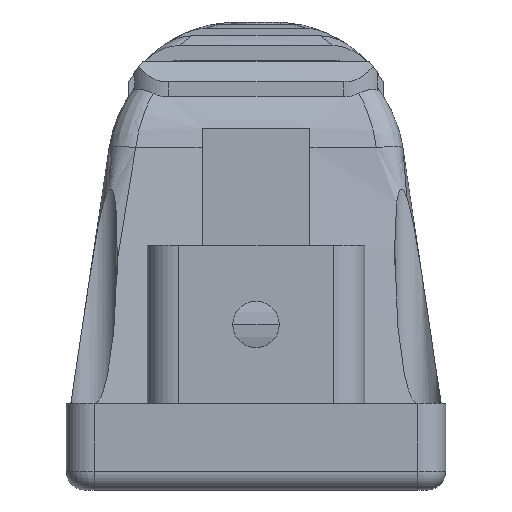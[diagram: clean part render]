
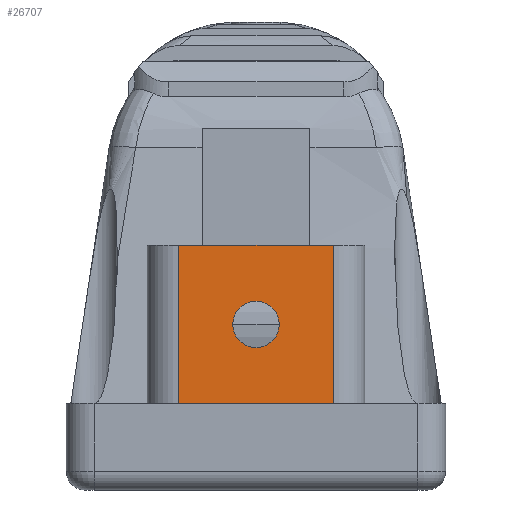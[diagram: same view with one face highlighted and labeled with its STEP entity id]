
A CAD part, front view. The second image highlights one B-rep face of the part: STEP entity #26707.
In plain terms, the highlighted planar face has unit normal (0, -1, 0).
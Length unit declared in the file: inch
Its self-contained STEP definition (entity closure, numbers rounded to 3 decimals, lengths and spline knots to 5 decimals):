
#235 = VECTOR ( 'NONE', #24321, 39.37008 ) ;
#991 = DIRECTION ( 'NONE',  ( 0., 0., -1. ) ) ;
#1614 = CARTESIAN_POINT ( 'NONE',  ( 0.585, -2.215, 1.315 ) ) ;
#1740 = PLANE ( 'NONE',  #11931 ) ;
#2037 = CARTESIAN_POINT ( 'NONE',  ( -0.125, -2.215, 0.89 ) ) ;
#3593 = CARTESIAN_POINT ( 'NONE',  ( 0.415, -2.215, 0.465 ) ) ;
#3931 = FACE_BOUND ( 'NONE', #16984, .T. ) ;
#3977 = EDGE_CURVE ( 'NONE', #20256, #5592, #8199, .T. ) ;
#4523 = DIRECTION ( 'NONE',  ( -1., 0., 0. ) ) ;
#4694 = VECTOR ( 'NONE', #991, 39.37008 ) ;
#5238 = CARTESIAN_POINT ( 'NONE',  ( -0.415, -2.215, 0.465 ) ) ;
#5592 = VERTEX_POINT ( 'NONE', #9353 ) ;
#5726 = ORIENTED_EDGE ( 'NONE', *, *, #8434, .F. ) ;
#5766 = DIRECTION ( 'NONE',  ( 0., -1., 0. ) ) ;
#6195 = EDGE_CURVE ( 'NONE', #26450, #6747, #16536, .T. ) ;
#6427 = DIRECTION ( 'NONE',  ( -1., 0., 0. ) ) ;
#6633 = EDGE_CURVE ( 'NONE', #18846, #9650, #10839, .T. ) ;
#6747 = VERTEX_POINT ( 'NONE', #2037 ) ;
#8176 = ORIENTED_EDGE ( 'NONE', *, *, #6195, .F. ) ;
#8199 = LINE ( 'NONE', #1614, #19788 ) ;
#8434 = EDGE_CURVE ( 'NONE', #6747, #26450, #14066, .T. ) ;
#9353 = CARTESIAN_POINT ( 'NONE',  ( -0.415, -2.215, 1.315 ) ) ;
#9650 = VERTEX_POINT ( 'NONE', #23661 ) ;
#10119 = CARTESIAN_POINT ( 'NONE',  ( 0.125, -2.215, 0.89 ) ) ;
#10547 = FACE_OUTER_BOUND ( 'NONE', #17410, .T. ) ;
#10839 = LINE ( 'NONE', #21881, #26859 ) ;
#11344 = ORIENTED_EDGE ( 'NONE', *, *, #29040, .T. ) ;
#11620 = EDGE_CURVE ( 'NONE', #5592, #9650, #20844, .T. ) ;
#11666 = ORIENTED_EDGE ( 'NONE', *, *, #3977, .T. ) ;
#11931 = AXIS2_PLACEMENT_3D ( 'NONE', #24521, #17456, #6427 ) ;
#11969 = ORIENTED_EDGE ( 'NONE', *, *, #11620, .T. ) ;
#11974 = DIRECTION ( 'NONE',  ( 1., 0., 0. ) ) ;
#13059 = DIRECTION ( 'NONE',  ( -1., 0., 0. ) ) ;
#13909 = CARTESIAN_POINT ( 'NONE',  ( 0., -2.215, 0.89 ) ) ;
#14066 = CIRCLE ( 'NONE', #27220, 0.125 ) ;
#14741 = DIRECTION ( 'NONE',  ( 1., 0., 0. ) ) ;
#15338 = CARTESIAN_POINT ( 'NONE',  ( 0.415, -2.215, 1.315 ) ) ;
#16536 = CIRCLE ( 'NONE', #21225, 0.125 ) ;
#16984 = EDGE_LOOP ( 'NONE', ( #8176, #5726 ) ) ;
#17410 = EDGE_LOOP ( 'NONE', ( #29022, #11344, #11666, #11969 ) ) ;
#17456 = DIRECTION ( 'NONE',  ( 0., 1., 0. ) ) ;
#18846 = VERTEX_POINT ( 'NONE', #3593 ) ;
#19788 = VECTOR ( 'NONE', #13059, 39.37008 ) ;
#20256 = VERTEX_POINT ( 'NONE', #21734 ) ;
#20844 = LINE ( 'NONE', #5238, #4694 ) ;
#20946 = DIRECTION ( 'NONE',  ( 0., -1., 0. ) ) ;
#21225 = AXIS2_PLACEMENT_3D ( 'NONE', #13909, #5766, #14741 ) ;
#21734 = CARTESIAN_POINT ( 'NONE',  ( 0.415, -2.215, 1.315 ) ) ;
#21881 = CARTESIAN_POINT ( 'NONE',  ( 0.585, -2.215, 0.465 ) ) ;
#23661 = CARTESIAN_POINT ( 'NONE',  ( -0.415, -2.215, 0.465 ) ) ;
#23728 = CARTESIAN_POINT ( 'NONE',  ( 0., -2.215, 0.89 ) ) ;
#24027 = LINE ( 'NONE', #15338, #235 ) ;
#24321 = DIRECTION ( 'NONE',  ( 0., 0., 1. ) ) ;
#24521 = CARTESIAN_POINT ( 'NONE',  ( 0.585, -2.215, 0.465 ) ) ;
#26450 = VERTEX_POINT ( 'NONE', #10119 ) ;
#26707 = ADVANCED_FACE ( 'NONE', ( #3931, #10547 ), #1740, .F. ) ;
#26859 = VECTOR ( 'NONE', #4523, 39.37008 ) ;
#27220 = AXIS2_PLACEMENT_3D ( 'NONE', #23728, #20946, #11974 ) ;
#29022 = ORIENTED_EDGE ( 'NONE', *, *, #6633, .F. ) ;
#29040 = EDGE_CURVE ( 'NONE', #18846, #20256, #24027, .T. ) ;
